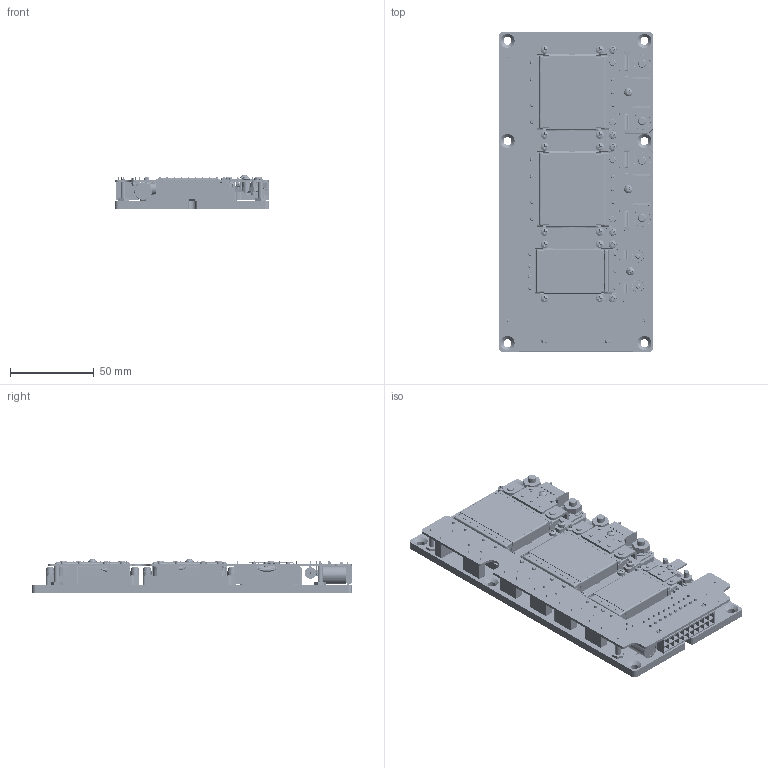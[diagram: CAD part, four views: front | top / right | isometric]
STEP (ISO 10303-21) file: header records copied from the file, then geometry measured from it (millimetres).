
FILE_DESCRIPTION (( 'STEP AP214' ), '1' );
FILE_NAME ('VA-E-LUG-3OUT.STEP', '2011-02-19T00:06:38', ( 'Vicor Employee' ), ( 'Vicor Corporation' ), 'SwSTEP 2.0', 'SolidWorks 2011', '' );
FILE_SCHEMA (( 'AUTOMOTIVE_DESIGN' ));
Length unit declared in the file: inch
Products named in the file (1): VA-E-LUG-3OUT
Bounding box: 92.28 x 191.57 x 20.26 mm (x, y, z)
Volume: 150691.9 mm3; surface area: 144607.7 mm2
Topology: 1 solids, 1 shells, 7703 faces, 20811 edges, 13359 vertices
Faces by surface type: plane 4431, cylinder 2073, bspline 563, cone 442, torus 104, sphere 90
Entity records: 370592 total; most frequent: CARTESIAN_POINT 80168, ORIENTED_EDGE 41526, DIRECTION 37353, EDGE_CURVE 20763, VERTEX_POINT 13359, LINE 13299, VECTOR 13299, AXIS2_PLACEMENT_3D 12027
